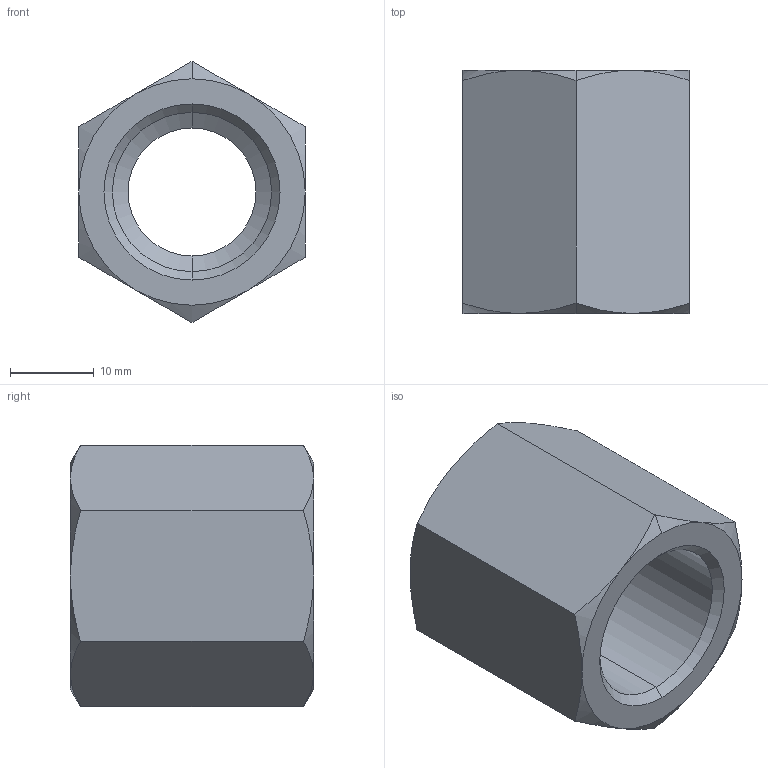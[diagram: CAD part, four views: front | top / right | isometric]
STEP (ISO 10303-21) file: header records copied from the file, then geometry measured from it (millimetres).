
FILE_DESCRIPTION (( 'STEP AP203' ), '1' );
FILE_NAME ('BXH02 B4B3 00.STEP', '2018-10-27T12:06:12', ( '' ), ( '' ), 'SwSTEP 2.0', 'SolidWorks 2013', '' );
FILE_SCHEMA (( 'CONFIG_CONTROL_DESIGN' ));
Length unit declared in the file: millimetre
Products named in the file (1): BXH02 B4B3 00
Bounding box: 27 x 29 x 31.18 mm (x, y, z)
Volume: 11407.2 mm3; surface area: 5020 mm2
Topology: 1 solids, 1 shells, 32 faces, 68 edges, 38 vertices
Faces by surface type: cone 20, plane 8, cylinder 4
Entity records: 1027 total; most frequent: CARTESIAN_POINT 291, DIRECTION 136, ORIENTED_EDGE 136, EDGE_CURVE 68, AXIS2_PLACEMENT_3D 59, VERTEX_POINT 38, EDGE_LOOP 34, FACE_OUTER_BOUND 32
